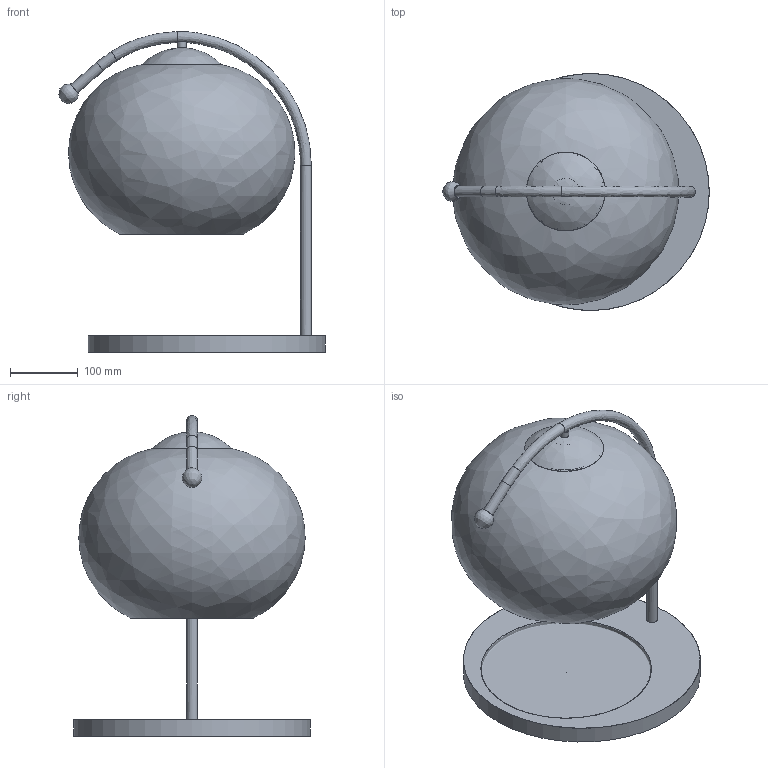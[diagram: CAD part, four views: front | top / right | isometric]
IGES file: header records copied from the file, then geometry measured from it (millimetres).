
Global section: file name: Z:\; native system: Rhinoceros ( Nov 10 2025 ); preprocessor: Trout Lake IGES 012 Nov 10 2025; date: 260518.015657; units: millimetre
Bounding box: 393.54 x 349.99 x 473.97 mm (x, y, z)
Surface area: 879083 mm2 (no closed solid volume)
Topology: 0 solids, 0 shells, 75 faces, 228 edges, 154 vertices
Faces by surface type: bspline 75
